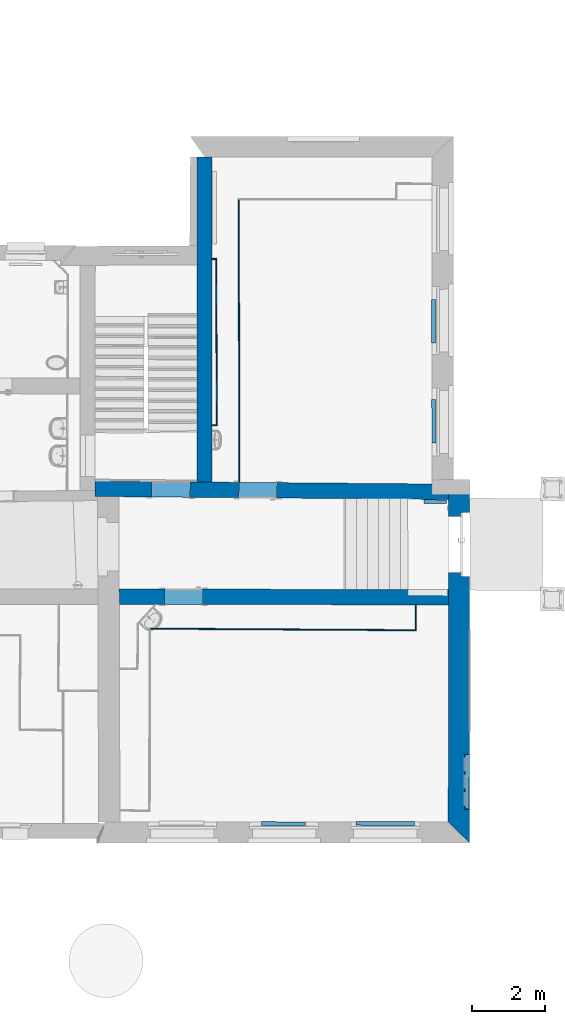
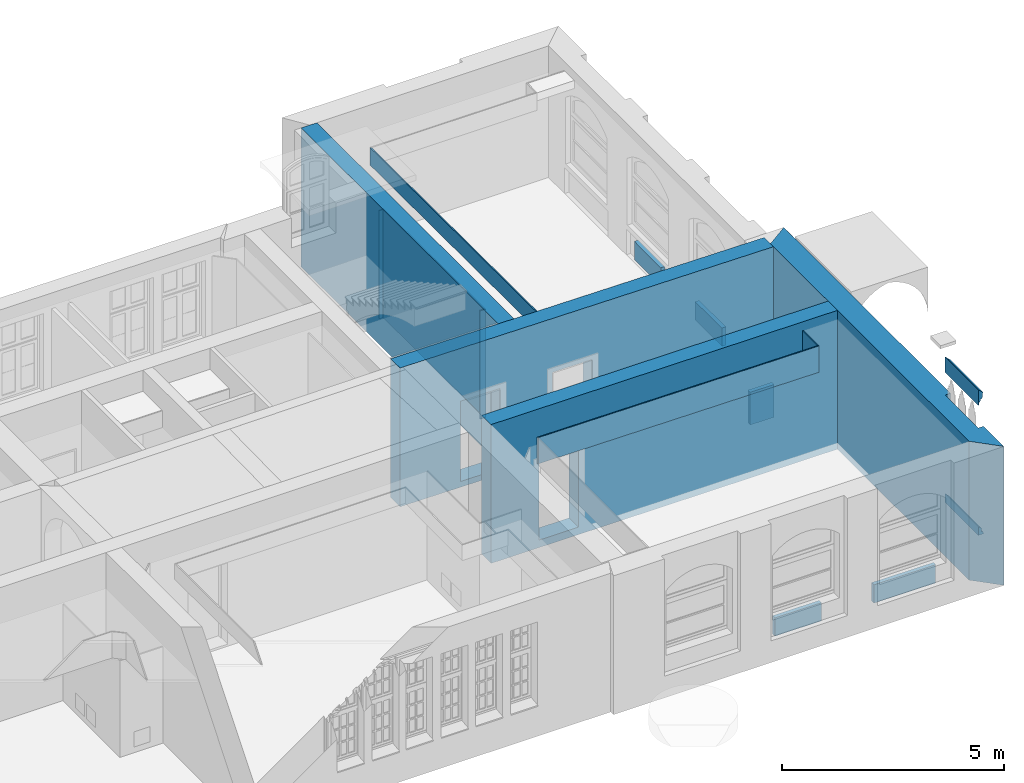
# One storey, part 46 of 158: 17 walls, 5 openings.
"""IFC2X3 building model written with IfcOpenShell, lengths in metres."""

from ifc_helpers import new_model, entity, si_unit, converted_unit, derived_unit, money_unit, point, direction, frame, frame_2d, origin_with_axes, origin_2d_with_axis, place, context, subcontext, project, spatial, polyline, circle_curve, parameter, trimmed, segment, composite_curve, rectangle, outline, extrude, material, layer, layer_set, layer_usage, type_object, element, save


model = new_model("IFC2X3")

# Units and contexts
model_context = context("Model", 3, precision=1e-05, world=origin_with_axes(), true_north=direction((0.0, 1.0)))
body_context = subcontext(model_context, "Body", "Model", "MODEL_VIEW")
ifc_project = project(units=[si_unit("LENGTHUNIT", "METRE"), si_unit("AREAUNIT", "SQUARE_METRE"), si_unit("VOLUMEUNIT", "CUBIC_METRE"), converted_unit("PLANEANGLEUNIT", "DEGREE", entity("IfcPlaneAngleMeasure", 0.0174532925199), si_unit("PLANEANGLEUNIT", "RADIAN"), dimensions=[0, 0, 0, 0, 0, 0, 0]), money_unit("EUR"), converted_unit("TIMEUNIT", "Year", entity("IfcTimeMeasure", 31556926.0), si_unit("TIMEUNIT", "SECOND"), dimensions=[0, 0, 1, 0, 0, 0, 0]), si_unit("MASSUNIT", "GRAM", prefix="KILO"), si_unit("THERMODYNAMICTEMPERATUREUNIT", "DEGREE_CELSIUS"), si_unit("LUMINOUSINTENSITYUNIT", "LUMEN"), si_unit("ENERGYUNIT", "JOULE", prefix="MEGA"), derived_unit("THERMALCONDUCTANCEUNIT", [(si_unit("POWERUNIT", "WATT"), 1), (si_unit("LENGTHUNIT", "METRE"), -1), (si_unit("THERMODYNAMICTEMPERATUREUNIT", "KELVIN"), -1)]), derived_unit("SPECIFICHEATCAPACITYUNIT", [(si_unit("ENERGYUNIT", "JOULE"), 1), (si_unit("MASSUNIT", "GRAM", prefix="KILO"), -1), (si_unit("THERMODYNAMICTEMPERATUREUNIT", "KELVIN"), -1)]), derived_unit("MASSDENSITYUNIT", [(si_unit("MASSUNIT", "GRAM", prefix="KILO"), 1), (si_unit("VOLUMEUNIT", "CUBIC_METRE"), -1)])], contexts=[model_context])

# Site, building, storey
site_placement = place(None, origin_with_axes())
site = spatial("IfcSite", under=ifc_project, at=site_placement, Name="Gelände", CompositionType="ELEMENT")
building_placement = place(site_placement, origin_with_axes())
building = spatial("IfcBuilding", under=site, at=building_placement, Name="Gebäude", CompositionType="ELEMENT")
storey_placement = place(building_placement, origin_with_axes())
storey = spatial("IfcBuildingStorey", under=building, at=storey_placement, Name="ERDGESCHOSS", CompositionType="ELEMENT", Elevation=0.0)

# Wall, opening
ifc_material_1 = material(Name="05_ALLGEMEIN - TRAGENDE BAUTEILE")
ifc_layer_1 = layer(ifc_material_1, 0.42, ventilated="UNKNOWN")
ifc_layer_set_1 = layer_set([ifc_layer_1], Name="05_ALLGEMEIN - TRAGENDE BAUTEILE 0.42")
ifc_layer_usage_1 = layer_usage(ifc_layer_set_1, "AXIS2", "NEGATIVE", 0.42)
wall_type_1 = type_object("IfcWallType", Name="05_ALLGEMEIN - TRAGENDE BAUTEILE 420", PredefinedType="ELEMENTEDWALL")
wall_1_placement = place(storey_placement, frame((32.1184601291, 16.8023667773, -0.21), z_axis=(0.0, 0.0, 1.0), x_axis=(-0.999998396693, 0.00179070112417, 0.0)))
wall_1 = element("IfcWallStandardCase", 1, at=wall_1_placement, inside=storey, type_object=wall_type_1, material=ifc_layer_usage_1, Name="Wand-036", ObjectType="ELEMENTEDWALL", context=body_context, shape_type="SweptSolid", body=[
    extrude(outline(polyline([(0.580000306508, 0.0), (9.56213301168, 0.0), (9.56005871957, 0.42), (0.57956851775, 0.42), (0.580000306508, 0.0)])), origin_with_axes(), (0.0, 0.0, 1.0), 3.81),
])
opening_1_placement = place(wall_1_placement, frame((7.80414924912, 0.0, 0.205703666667), z_axis=(0.0, 0.0, 1.0), x_axis=(1.0, 0.0, 0.0)))
element("IfcOpeningElement", 2, at=opening_1_placement, cuts=wall_1, Name="Tür-022", context=body_context, shape_type="SweptSolid", body=[
    extrude(rectangle(XDim=1.0219033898, YDim=2.127002, at=origin_2d_with_axis()), frame((0.0, -0.42, 1.063501), z_axis=(0.0, -1.0, 0.0), x_axis=(1.0, 0.0, 0.0)), (0.0, 0.0, -1.0), 1.26),
])

# Wall, openings
ifc_layer_usage_2 = layer_usage(ifc_layer_set_1, "AXIS2", "NEGATIVE", 0.42)
wall_2_placement = place(storey_placement, frame((21.8936762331, 19.3427264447, -0.210000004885), z_axis=(0.0, 0.0, 1.0), x_axis=(0.999964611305, -0.00841285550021, 0.0)))
wall_2 = element("IfcWallStandardCase", 3, at=wall_2_placement, inside=storey, type_object=wall_type_1, material=ifc_layer_usage_2, Name="Wand-039", ObjectType="ELEMENTEDWALL", context=body_context, shape_type="SweptSolid", body=[
    extrude(outline(polyline([(0.0, 0.0), (9.64700059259, 0.0), (9.64378739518, 0.42), (-0.00298585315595, 0.42), (0.0, 0.0)])), origin_with_axes(), (0.0, 0.0, 1.0), 3.81000000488),
])
opening_2_placement = place(wall_2_placement, frame((2.07098933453, 0.0, 0.156582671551), z_axis=(0.0, 0.0, 1.0), x_axis=(1.0, 0.0, 0.0)))
element("IfcOpeningElement", 4, at=opening_2_placement, cuts=wall_2, Name="Tür-022", context=body_context, shape_type="SweptSolid", body=[
    extrude(rectangle(XDim=1.02822560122, YDim=2.203152, at=origin_2d_with_axis()), frame((0.0, 0.42, 1.101576), z_axis=(0.0, -1.0, 0.0), x_axis=(1.0, 0.0, 0.0)), (0.0, 0.0, 1.0), 1.26),
])
opening_3_placement = place(wall_2_placement, frame((4.44709559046, 0.0, 0.205703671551), z_axis=(0.0, 0.0, 1.0), x_axis=(1.0, 0.0, 0.0)))
element("IfcOpeningElement", 5, at=opening_3_placement, cuts=wall_2, Name="Tür-022", context=body_context, shape_type="SweptSolid", body=[
    extrude(rectangle(XDim=1.0219033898, YDim=2.127002, at=origin_2d_with_axis()), frame((0.0, 0.42, 1.063501), z_axis=(0.0, -1.0, 0.0), x_axis=(-1.0, 0.0, 0.0)), (0.0, 0.0, 1.0), 1.26),
])

# Walls
ifc_material_2 = material(Name="43_Gipskarton")
ifc_layer_2 = layer(ifc_material_2, 0.03, ventilated="UNKNOWN")
ifc_layer_set_2 = layer_set([ifc_layer_2], Name="43_Gipskarton 0.03")
ifc_layer_usage_3 = layer_usage(ifc_layer_set_2, "AXIS2", "NEGATIVE", 0.03)
wall_type_2 = type_object("IfcWallType", Name="43_Gipskarton 30", PredefinedType="ELEMENTEDWALL")
wall_3_placement = place(storey_placement, frame((25.2369564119, 21.2690057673, -0.092576), z_axis=(0.0, 0.0, 1.0), x_axis=(-0.00516869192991, 0.999986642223, 0.0)))
element("IfcWallStandardCase", 6, at=wall_3_placement, inside=storey, type_object=wall_type_2, material=ifc_layer_usage_3, Name="Wand-036", ObjectType="ELEMENTEDWALL", context=body_context, shape_type="SweptSolid", body=[
    extrude(outline(polyline([(0.0, 0.0), (4.56961995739, 0.0), (4.53977461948, 0.03), (0.0301599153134, 0.03), (0.0, 0.0)])), origin_with_axes(), (0.0, 0.0, 1.0), 2.972576),
])
ifc_layer_usage_4 = layer_usage(ifc_layer_set_2, "AXIS2", "NEGATIVE", 0.03)
wall_4_placement = place(storey_placement, frame((25.2133374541, 25.8385646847, -0.092576), z_axis=(0.0, 0.0, 1.0), x_axis=(-1.0, 0.0, 0.0)))
element("IfcWallStandardCase", 7, at=wall_4_placement, inside=storey, type_object=wall_type_2, material=ifc_layer_usage_4, Name="Wand-037", ObjectType="ELEMENTEDWALL", context=body_context, shape_type="SweptSolid", body=[
    extrude(outline(polyline([(0.0, 0.0), (0.130575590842, 0.0), (0.13058001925, 0.03), (0.0298453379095, 0.03), (0.0, 0.0)])), origin_with_axes(), (0.0, 0.0, 1.0), 2.972576),
])
ifc_layer_usage_5 = layer_usage(ifc_layer_set_2, "AXIS2", "NEGATIVE", 0.0)
wall_5_placement = place(storey_placement, frame((25.2369564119, 21.2690057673, -0.092576), z_axis=(0.0, 0.0, 1.0), x_axis=(-0.999999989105, 0.000147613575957, 0.0)))
element("IfcWallStandardCase", 8, at=wall_5_placement, inside=storey, type_object=wall_type_2, material=ifc_layer_usage_5, Name="Wand-038", ObjectType="ELEMENTEDWALL", context=body_context, shape_type="SweptSolid", body=[
    extrude(outline(polyline([(0.0301599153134, -0.03), (0.154869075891, -0.03), (0.154869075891, 0.0), (0.0, 0.0), (0.0301599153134, -0.03)])), origin_with_axes(), (0.0, 0.0, 1.0), 2.972576),
])
ifc_layer_usage_6 = layer_usage(ifc_layer_set_2, "AXIS2", "NEGATIVE", 0.03)
wall_6_placement = place(storey_placement, frame((25.8519134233, 19.3094251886, 2.88), z_axis=(0.0, 0.0, 1.0), x_axis=(-0.00262056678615, 0.999996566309, 0.0)))
element("IfcWallStandardCase", 9, at=wall_6_placement, inside=storey, type_object=wall_type_2, material=ifc_layer_usage_6, Name="Wand-045", ObjectType="ELEMENTEDWALL", context=body_context, shape_type="SweptSolid", body=[
    extrude(outline(polyline([(0.420025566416, 0.0), (8.13014571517, 0.0), (8.16022082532, 0.03), (0.420356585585, 0.03), (0.420025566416, 0.0)])), origin_with_axes(), (0.0, 0.0, 1.0), 0.48),
])
ifc_layer_usage_7 = layer_usage(ifc_layer_set_2, "AXIS2", "NEGATIVE", 0.03)
wall_7_placement = place(storey_placement, frame((23.4031106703, 15.7215350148, 2.64), z_axis=(0.0, 0.0, 1.0), x_axis=(0.99998251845, -0.00591293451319, 0.0)))
element("IfcWallStandardCase", 10, at=wall_7_placement, inside=storey, type_object=wall_type_2, material=ifc_layer_usage_7, Name="Wand-045", ObjectType="ELEMENTEDWALL", context=body_context, shape_type="SweptSolid", body=[
    extrude(outline(polyline([(0.0, 0.0), (7.25576380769, 0.0), (7.2255858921, 0.03), (-0.0301302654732, 0.03), (0.0, 0.0)])), origin_with_axes(), (0.0, 0.0, 1.0), 0.72),
])
ifc_layer_usage_8 = layer_usage(ifc_layer_set_2, "AXIS2", "NEGATIVE", 0.03)
wall_8_placement = place(storey_placement, frame((30.658747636, 15.6786321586, 2.64), z_axis=(0.0, 0.0, 1.0), x_axis=(0.0, 1.0, 0.0)))
element("IfcWallStandardCase", 11, at=wall_8_placement, inside=storey, type_object=wall_type_2, material=ifc_layer_usage_8, Name="Wand-048", ObjectType="ELEMENTEDWALL", context=body_context, shape_type="SweptSolid", body=[
    extrude(outline(polyline([(0.0, 0.0), (0.706347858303, 0.0), (0.706401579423, 0.03), (0.0301779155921, 0.03), (0.0, 0.0)])), origin_with_axes(), (0.0, 0.0, 1.0), 0.72),
])
ifc_material_3 = material(Name="01_ALLGEMEIN - BAUTEIL")
ifc_layer_3 = layer(ifc_material_3, 0.105, ventilated="UNKNOWN")
ifc_layer_set_3 = layer_set([ifc_layer_3], Name="01_ALLGEMEIN - BAUTEIL 0.105")
ifc_layer_usage_9 = layer_usage(ifc_layer_set_3, "AXIS2", "NEGATIVE", 0.0)
wall_type_3 = type_object("IfcWallType", Name="01_ALLGEMEIN - BAUTEIL 105", PredefinedType="ELEMENTEDWALL")
wall_9_placement = place(storey_placement, frame((31.4925154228, 19.1469662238, -0.992329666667), z_axis=(0.0, 0.0, 1.0), x_axis=(-0.999964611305, 0.00841285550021, 0.0)))
element("IfcWallStandardCase", 12, at=wall_9_placement, inside=storey, type_object=wall_type_3, material=ifc_layer_usage_9, Name="Wand-037", ObjectType="ELEMENTEDWALL", context=body_context, shape_type="SweptSolid", body=[
    extrude(outline(polyline([(0.0, -0.105), (0.622525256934, -0.105), (0.622525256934, 0.0), (0.0, 0.0), (0.0, -0.105)])), origin_with_axes(), (0.0, 0.0, 1.0), 0.89772),
])
ifc_layer_usage_10 = layer_usage(ifc_layer_set_3, "AXIS2", "NEGATIVE", 0.105)
wall_10_placement = place(storey_placement, frame((31.0835975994, 24.7254754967, 0.0935706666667), z_axis=(0.0, 0.0, 1.0), x_axis=(-0.00534165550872, -0.999985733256, 0.0)))
element("IfcWallStandardCase", 13, at=wall_10_placement, inside=storey, type_object=wall_type_3, material=ifc_layer_usage_10, Name="Wand-038", ObjectType="ELEMENTEDWALL", context=body_context, shape_type="SweptSolid", body=[
    extrude(outline(polyline([(0.0, 0.0), (1.19713042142, 0.0), (1.19713042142, 0.105), (0.0, 0.105), (0.0, 0.0)])), origin_with_axes(), (0.0, 0.0, 1.0), 0.501014),
])
ifc_layer_usage_11 = layer_usage(ifc_layer_set_3, "AXIS2", "NEGATIVE", 0.0)
wall_11_placement = place(storey_placement, frame((26.4435206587, 10.469528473, 0.0935706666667), z_axis=(0.0, 0.0, 1.0), x_axis=(0.999989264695, -0.00463362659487, 0.0)))
element("IfcWallStandardCase", 14, at=wall_11_placement, inside=storey, type_object=wall_type_3, material=ifc_layer_usage_11, Name="Wand-038", ObjectType="ELEMENTEDWALL", context=body_context, shape_type="SweptSolid", body=[
    extrude(outline(polyline([(0.0, -0.105), (1.20106838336, -0.105), (1.20106838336, 0.0), (0.0, 0.0), (0.0, -0.105)])), origin_with_axes(), (0.0, 0.0, 1.0), 0.501014),
])
ifc_layer_usage_12 = layer_usage(ifc_layer_set_3, "AXIS2", "NEGATIVE", 0.105)
wall_12_placement = place(storey_placement, frame((31.0828039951, 21.995526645, 0.0935706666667), z_axis=(0.0, 0.0, 1.0), x_axis=(0.00534386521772, -0.99998572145, 0.0)))
element("IfcWallStandardCase", 15, at=wall_12_placement, inside=storey, type_object=wall_type_3, material=ifc_layer_usage_12, Name="Wand-039", ObjectType="ELEMENTEDWALL", context=body_context, shape_type="SweptSolid", body=[
    extrude(outline(polyline([(0.0, 0.0), (1.19854300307, 0.0), (1.19854300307, 0.105), (0.0, 0.105), (0.0, 0.0)])), origin_with_axes(), (0.0, 0.0, 1.0), 0.501014),
])
ifc_layer_usage_13 = layer_usage(ifc_layer_set_3, "AXIS2", "NEGATIVE", 0.0)
wall_13_placement = place(storey_placement, frame((29.0185505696, 10.4779119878, 0.0935706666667), z_axis=(0.0, 0.0, 1.0), x_axis=(0.999982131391, -0.00597803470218, 0.0)))
element("IfcWallStandardCase", 16, at=wall_13_placement, inside=storey, type_object=wall_type_3, material=ifc_layer_usage_13, Name="Wand-039", ObjectType="ELEMENTEDWALL", context=body_context, shape_type="SweptSolid", body=[
    extrude(outline(polyline([(0.0, -0.105), (1.59579689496, -0.105), (1.59579689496, 0.0), (0.0, 0.0), (0.0, -0.105)])), origin_with_axes(), (0.0, 0.0, 1.0), 0.501014),
])
ifc_layer_4 = layer(ifc_material_1, 0.41, ventilated="UNKNOWN")
ifc_layer_set_4 = layer_set([ifc_layer_4], Name="05_ALLGEMEIN - TRAGENDE BAUTEILE 0.41")
ifc_layer_usage_14 = layer_usage(ifc_layer_set_4, "AXIS2", "POSITIVE", -0.41)
wall_type_4 = type_object("IfcWallType", Name="05_ALLGEMEIN - TRAGENDE BAUTEILE 410", PredefinedType="ELEMENTEDWALL")
wall_14_placement = place(storey_placement, frame((24.6717995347, 19.3193536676, -0.210000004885), z_axis=(0.0, 0.0, 1.0), x_axis=(0.000147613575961, 0.999999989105, 0.0)))
element("IfcWallStandardCase", 17, at=wall_14_placement, inside=storey, type_object=wall_type_4, material=ifc_layer_usage_14, Name="Wand-039", ObjectType="ELEMENTEDWALL", context=body_context, shape_type="SweptSolid", body=[
    extrude(outline(polyline([(0.416625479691, -0.41), (9.28413207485, -0.41), (9.28376837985, 0.0), (0.42001434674, 0.0), (0.416625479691, -0.41)])), origin_with_axes(), (0.0, 0.0, 1.0), 3.81000000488),
])

# Wall, openings
ifc_layer_5 = layer(ifc_material_1, 0.58, ventilated="UNKNOWN")
ifc_layer_set_5 = layer_set([ifc_layer_5], Name="05_ALLGEMEIN - TRAGENDE BAUTEILE 0.58")
ifc_layer_usage_15 = layer_usage(ifc_layer_set_5, "AXIS2", "NEGATIVE", 0.58)
wall_type_5 = type_object("IfcWallType", Name="05_ALLGEMEIN - TRAGENDE BAUTEILE 580", PredefinedType="ELEMENTEDWALL")
wall_15_placement = place(storey_placement, frame((32.1131897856, 9.89165640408, -0.21), z_axis=(0.0, 0.0, 1.0), x_axis=(0.000762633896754, 0.999999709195, 0.0)))
wall_15 = element("IfcWallStandardCase", 18, at=wall_15_placement, inside=storey, type_object=wall_type_5, material=ifc_layer_usage_15, Name="Wand-037", ObjectType="ELEMENTEDWALL", context=body_context, shape_type="SweptSolid", body=[
    extrude(outline(polyline([(0.0, 0.0), (9.91263281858, 0.0), (9.50907943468, 0.58), (0.569401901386, 0.58), (0.0, 0.0)])), origin_with_axes(), (0.0, 0.0, 1.0), 3.81),
])
opening_4_placement = place(wall_15_placement, frame((1.66214438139, 0.0, 0.862836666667), z_axis=(0.0, 0.0, 1.0), x_axis=(1.0, 0.0, 0.0)))
element("IfcOpeningElement", 19, at=opening_4_placement, cuts=wall_15, Name="Fenster-015", ObjectType="Recess", context=body_context, shape_type="SweptSolid", body=[
    extrude(outline(polyline([(-0.745747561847, 0.0), (-0.745747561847, -5.8639999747), (-0.606806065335, -5.98650496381), (-0.448114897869, -6.08205242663), (-0.274838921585, -6.14753255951), (-0.092617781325, -6.18081422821), (0.0926177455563, -6.18081422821), (0.274838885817, -6.14753255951), (0.4481148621, -6.08205242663), (0.606806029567, -5.98650496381), (0.745747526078, -5.8639999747), (0.745748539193, -5.86390004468), (0.745747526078, 0.0), (-0.745747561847, 0.0)])), frame((0.0, 0.137560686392, 0.0), z_axis=(0.0, -1.0, 0.0), x_axis=(-1.0, 0.0, 0.0)), (0.0, 0.0, 1.0), 0.717560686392),
])
opening_5_placement = place(wall_15_placement, frame((8.1417537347, 0.0, -1.03755633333), z_axis=(0.0, 0.0, 1.0), x_axis=(1.0, 0.0, 0.0)))
element("IfcOpeningElement", 20, at=opening_5_placement, cuts=wall_15, Name="Tür-022", context=body_context, shape_type="SweptSolid", body=[
    extrude(outline(polyline([(-0.758161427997, 0.0), (-0.758161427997, -2.96317339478), (-0.678452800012, -3.03015185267), (-0.592858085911, -3.08942346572), (-0.502119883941, -3.14047400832), (-0.407025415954, -3.18286057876), (-0.308399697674, -3.21621544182), (-0.207098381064, -3.24024921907), (-0.104000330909, -3.25475339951), (0.0, -3.2596021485), (0.104000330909, -3.25475339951), (0.207098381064, -3.24024921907), (0.308399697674, -3.21621544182), (0.407025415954, -3.18286057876), (0.502119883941, -3.14047400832), (0.592858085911, -3.08942346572), (0.678452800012, -3.03015185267), (0.758161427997, -2.96317339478), (0.758161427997, 0.0), (-0.758161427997, 0.0)])), frame((0.0, 0.255356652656, 0.0), z_axis=(0.0, 1.0, 0.0), x_axis=(1.0, 0.0, 0.0)), (0.0, 0.0, 1.0), 0.904643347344),
    extrude(outline(polyline([(0.868161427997, 0.0), (0.868161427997, 3.01), (0.778886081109, 3.09091383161), (0.682109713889, 3.1626875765), (0.578764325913, 3.2246300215), (0.469845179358, 3.27614463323), (0.356401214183, 3.31673530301), (0.239524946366, 3.34601112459), (0.120341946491, 3.36369015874), (0.0, 3.3696021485), (-0.120341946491, 3.36369015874), (-0.239524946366, 3.34601112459), (-0.356401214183, 3.31673530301), (-0.469845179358, 3.27614463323), (-0.578764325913, 3.2246300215), (-0.682109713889, 3.1626875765), (-0.778886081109, 3.09091383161), (-0.868161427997, 3.01), (-0.868161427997, 0.0), (0.868161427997, 0.0)])), frame((0.0, 0.195356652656, 0.0), z_axis=(0.0, -1.0, 0.0), x_axis=(1.0, 0.0, 0.0)), (0.0, 0.0, 1.0), 0.775356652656),
    extrude(outline(polyline([(0.868161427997, 0.0), (0.868161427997, 3.01), (0.778886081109, 3.09091383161), (0.682109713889, 3.1626875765), (0.578764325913, 3.2246300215), (0.469845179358, 3.27614463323), (0.356401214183, 3.31673530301), (0.239524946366, 3.34601112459), (0.120341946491, 3.36369015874), (0.0, 3.3696021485), (-0.120341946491, 3.36369015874), (-0.239524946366, 3.34601112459), (-0.356401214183, 3.31673530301), (-0.469845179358, 3.27614463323), (-0.578764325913, 3.2246300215), (-0.682109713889, 3.1626875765), (-0.778886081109, 3.09091383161), (-0.868161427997, 3.01), (-0.868161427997, 0.0), (0.868161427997, 0.0)])), frame((0.0, 0.195356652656, 0.0), z_axis=(0.0, -1.0, 0.0), x_axis=(1.0, 0.0, 0.0)), (0.0, 0.0, -1.0), 0.06),
])

# Walls
wall_type_6 = type_object("IfcWallType", Name="Fassade Sims 5 130 x 418", PredefinedType="ELEMENTEDWALL")
wall_16_placement = place(storey_placement, frame((31.9779050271, 12.3008326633, 4.63746928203), z_axis=(0.0, 0.0, 1.0), x_axis=(-0.000762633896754, -0.999999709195, 0.0)))
element("IfcWall", 21, at=wall_16_placement, inside=storey, type_object=wall_type_6, material=ifc_material_3, Name="Wand-072", ObjectType="ELEMENTEDWALL", context=body_context, shape_type="SweptSolid", body=[
    extrude(outline(composite_curve([segment(polyline([(0.000343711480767, -0.41847761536), (0.0179656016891, -0.40918961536), (0.0234295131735, -0.34127661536), (0.0410953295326, -0.33468861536), (0.0627586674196, -0.26959961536), (0.0799453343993, -0.26206261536)]), True, "CONTINUOUS"), segment(trimmed(circle_curve(frame_2d((0.0425186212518, -0.212114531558), x_axis=(0.599647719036, -0.80026408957)), 0.06241450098), [point((0.0799453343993, -0.26206261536)), parameter(0.0)], [point((0.103090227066, -0.19705961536)), parameter(67.1132140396)], True, "CARTESIAN"), True, "CONTINUOUS"), segment(polyline([(0.103090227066, -0.19705961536), (0.114038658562, -0.12341361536), (0.129953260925, -0.11365761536), (0.0114260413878, 9.38463960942e-06), (0.0, 0.0), (0.000343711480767, -0.41847761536)]), True, "CONTINUOUS")], self_intersect=False)), frame((0.0, 0.0, 0.0), z_axis=(1.0, 0.0, 0.0), x_axis=(0.0, 1.0, 0.0)), (0.0, 0.0, 1.0), 1.49149512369),
])
wall_type_7 = type_object("IfcWallType", Name="Fassade Sims 6 137 x 242", PredefinedType="ELEMENTEDWALL")
wall_17_placement = place(storey_placement, frame((31.9777144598, 12.2995476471, 0.894529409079), z_axis=(0.0, 0.0, 1.0), x_axis=(-0.000762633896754, -0.999999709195, 0.0)))
element("IfcWall", 22, at=wall_17_placement, inside=storey, type_object=wall_type_7, material=ifc_material_3, Name="Wand-072", ObjectType="ELEMENTEDWALL", context=body_context, shape_type="SweptSolid", body=[
    extrude(outline(composite_curve([segment(trimmed(circle_curve(frame_2d((0.0507526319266, -0.240794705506), x_axis=(0.999946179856, -0.0103748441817)), 0.0865590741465), [point((0.137307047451, -0.241692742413)), parameter(0.0)], [point((0.0805572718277, -0.159528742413)), parameter(70.4537171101)], True, "CARTESIAN"), True, "CONTINUOUS"), segment(polyline([(0.0805572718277, -0.159528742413), (0.088206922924, -0.101935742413), (0.0960297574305, -0.0944077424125), (0.0942759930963, -0.0890967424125), (0.0, 0.0), (0.0, -0.241692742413), (0.137307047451, -0.241692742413)]), True, "CONTINUOUS")], self_intersect=False)), frame((0.0, 0.0, 0.0), z_axis=(1.0, 0.0, 0.0), x_axis=(0.0, 1.0, 0.0)), (0.0, 0.0, 1.0), 1.49149562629),
])

save(model, "model.ifc")
